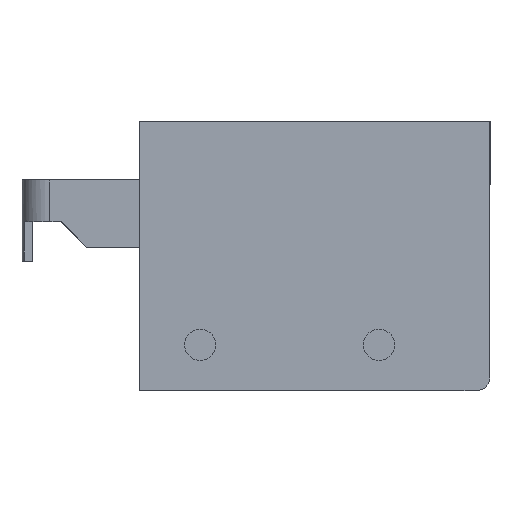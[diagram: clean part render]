
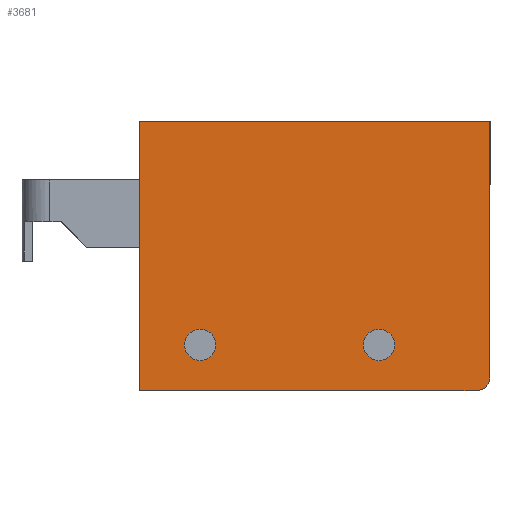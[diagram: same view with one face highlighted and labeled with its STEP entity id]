
A CAD part, left-side view. The second image highlights one B-rep face of the part: STEP entity #3681.
In plain terms, the highlighted planar face has unit normal (-1, 0, 0).
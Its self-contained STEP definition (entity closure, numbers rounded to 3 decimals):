
#500 = CARTESIAN_POINT ( 'NONE',  ( 0., 42.851, -8.2 ) ) ;
#501 = LINE ( 'NONE', #500, #1290 ) ;
#1290 = VECTOR ( 'NONE', #2515, 1000. ) ;
#1295 = VECTOR ( 'NONE', #2645, 1000. ) ;
#1302 = CIRCLE ( 'NONE', #1310, 2.8 ) ;
#1303 = CIRCLE ( 'NONE', #1304, 2.5 ) ;
#1304 = AXIS2_PLACEMENT_3D ( 'NONE', #2693, #2694, #2695 ) ;
#1305 = CIRCLE ( 'NONE', #1308, 2.8 ) ;
#1308 = AXIS2_PLACEMENT_3D ( 'NONE', #2700, #2701, #2702 ) ;
#1310 = AXIS2_PLACEMENT_3D ( 'NONE', #2705, #2706, #2707 ) ;
#1865 = EDGE_CURVE ( 'NONE', #1963, #3380, #501, .T. ) ;
#1869 = EDGE_CURVE ( 'NONE', #1959, #1963, #2524, .T. ) ;
#1876 = EDGE_CURVE ( 'NONE', #3380, #1960, #1303, .T. ) ;
#1878 = EDGE_CURVE ( 'NONE', #1953, #1948, #1305, .T. ) ;
#1879 = EDGE_CURVE ( 'NONE', #3438, #1947, #1302, .T. ) ;
#1907 = VECTOR ( 'NONE', #3610, 1000. ) ;
#1947 = VERTEX_POINT ( 'NONE', #2736 ) ;
#1948 = VERTEX_POINT ( 'NONE', #2734 ) ;
#1953 = VERTEX_POINT ( 'NONE', #2740 ) ;
#1959 = VERTEX_POINT ( 'NONE', #2745 ) ;
#1960 = VERTEX_POINT ( 'NONE', #2746 ) ;
#1963 = VERTEX_POINT ( 'NONE', #2749 ) ;
#1977 = ORIENTED_EDGE ( 'NONE', *, *, #1879, .F. ) ;
#1978 = ORIENTED_EDGE ( 'NONE', *, *, #3687, .F. ) ;
#1979 = ORIENTED_EDGE ( 'NONE', *, *, #1878, .F. ) ;
#1980 = ORIENTED_EDGE ( 'NONE', *, *, #3690, .F. ) ;
#1981 = ORIENTED_EDGE ( 'NONE', *, *, #3702, .T. ) ;
#1982 = ORIENTED_EDGE ( 'NONE', *, *, #1869, .T. ) ;
#1983 = ORIENTED_EDGE ( 'NONE', *, *, #1865, .T. ) ;
#1984 = ORIENTED_EDGE ( 'NONE', *, *, #1876, .T. ) ;
#1985 = ORIENTED_EDGE ( 'NONE', *, *, #3688, .T. ) ;
#2230 = EDGE_LOOP ( 'NONE', ( #1977, #1978 ) ) ;
#2234 = EDGE_LOOP ( 'NONE', ( #1981, #1982, #1983, #1984, #1985 ) ) ;
#2515 = DIRECTION ( 'NONE',  ( 0., -1., 0. ) ) ;
#2524 = LINE ( 'NONE', #2644, #1295 ) ;
#2644 = CARTESIAN_POINT ( 'NONE',  ( 0., 42.851, 40. ) ) ;
#2645 = DIRECTION ( 'NONE',  ( 0., 0., -1. ) ) ;
#2693 = CARTESIAN_POINT ( 'NONE',  ( 0., -17.349, -5.7 ) ) ;
#2694 = DIRECTION ( 'NONE',  ( -1., 0., 0. ) ) ;
#2695 = DIRECTION ( 'NONE',  ( 0., -1., 0. ) ) ;
#2700 = CARTESIAN_POINT ( 'NONE',  ( 0., 32., 0. ) ) ;
#2701 = DIRECTION ( 'NONE',  ( -1., 0., 0. ) ) ;
#2702 = DIRECTION ( 'NONE',  ( 0., -1., 0. ) ) ;
#2705 = CARTESIAN_POINT ( 'NONE',  ( 0., 0., 0. ) ) ;
#2706 = DIRECTION ( 'NONE',  ( -1., 0., 0. ) ) ;
#2707 = DIRECTION ( 'NONE',  ( 0., -1., 0. ) ) ;
#2734 = CARTESIAN_POINT ( 'NONE',  ( 0., 34.8, 0. ) ) ;
#2736 = CARTESIAN_POINT ( 'NONE',  ( 0., 2.8, 0. ) ) ;
#2740 = CARTESIAN_POINT ( 'NONE',  ( 0., 29.2, 0. ) ) ;
#2745 = CARTESIAN_POINT ( 'NONE',  ( 0., 42.851, 40. ) ) ;
#2746 = CARTESIAN_POINT ( 'NONE',  ( 0., -19.849, -5.7 ) ) ;
#2749 = CARTESIAN_POINT ( 'NONE',  ( 0., 42.851, -8.2 ) ) ;
#2767 = CARTESIAN_POINT ( 'NONE',  ( 0., -19.849, 40. ) ) ;
#2777 = CARTESIAN_POINT ( 'NONE',  ( 0., -17.349, -8.2 ) ) ;
#2812 = CARTESIAN_POINT ( 'NONE',  ( 0., -2.8, 0. ) ) ;
#2881 = FACE_BOUND ( 'NONE', #3670, .T. ) ;
#2885 = DIRECTION ( 'NONE',  ( 1., 0., 0. ) ) ;
#2888 = CARTESIAN_POINT ( 'NONE',  ( 0., 9.069, -3.053 ) ) ;
#2889 = FACE_BOUND ( 'NONE', #2230, .T. ) ;
#2891 = FACE_OUTER_BOUND ( 'NONE', #2234, .T. ) ;
#2892 = PLANE ( 'NONE',  #3346 ) ;
#2894 = DIRECTION ( 'NONE',  ( 0., 1., 0. ) ) ;
#2918 = CARTESIAN_POINT ( 'NONE',  ( 0., -19.849, 40. ) ) ;
#2919 = LINE ( 'NONE', #2918, #3333 ) ;
#2920 = CARTESIAN_POINT ( 'NONE',  ( 0., 0., 0. ) ) ;
#2921 = DIRECTION ( 'NONE',  ( -1., 0., 0. ) ) ;
#2922 = DIRECTION ( 'NONE',  ( 0., -1., 0. ) ) ;
#2923 = DIRECTION ( 'NONE',  ( 0., 0., 1. ) ) ;
#2928 = CARTESIAN_POINT ( 'NONE',  ( 0., 32., 0. ) ) ;
#2929 = DIRECTION ( 'NONE',  ( -1., 0., 0. ) ) ;
#2930 = DIRECTION ( 'NONE',  ( 0., -1., 0. ) ) ;
#3333 = VECTOR ( 'NONE', #2923, 1000. ) ;
#3335 = CIRCLE ( 'NONE', #3337, 2.8 ) ;
#3337 = AXIS2_PLACEMENT_3D ( 'NONE', #2920, #2921, #2922 ) ;
#3346 = AXIS2_PLACEMENT_3D ( 'NONE', #2888, #2885, #2894 ) ;
#3353 = CIRCLE ( 'NONE', #3356, 2.8 ) ;
#3356 = AXIS2_PLACEMENT_3D ( 'NONE', #2928, #2929, #2930 ) ;
#3370 = VERTEX_POINT ( 'NONE', #2767 ) ;
#3380 = VERTEX_POINT ( 'NONE', #2777 ) ;
#3438 = VERTEX_POINT ( 'NONE', #2812 ) ;
#3608 = LINE ( 'NONE', #3609, #1907 ) ;
#3609 = CARTESIAN_POINT ( 'NONE',  ( 0., 42.851, 40. ) ) ;
#3610 = DIRECTION ( 'NONE',  ( 0., 1., 0. ) ) ;
#3670 = EDGE_LOOP ( 'NONE', ( #1979, #1980 ) ) ;
#3681 = ADVANCED_FACE ( 'NONE', ( #2889, #2881, #2891 ), #2892, .F. ) ;
#3687 = EDGE_CURVE ( 'NONE', #1947, #3438, #3335, .T. ) ;
#3688 = EDGE_CURVE ( 'NONE', #1960, #3370, #2919, .T. ) ;
#3690 = EDGE_CURVE ( 'NONE', #1948, #1953, #3353, .T. ) ;
#3702 = EDGE_CURVE ( 'NONE', #3370, #1959, #3608, .T. ) ;
